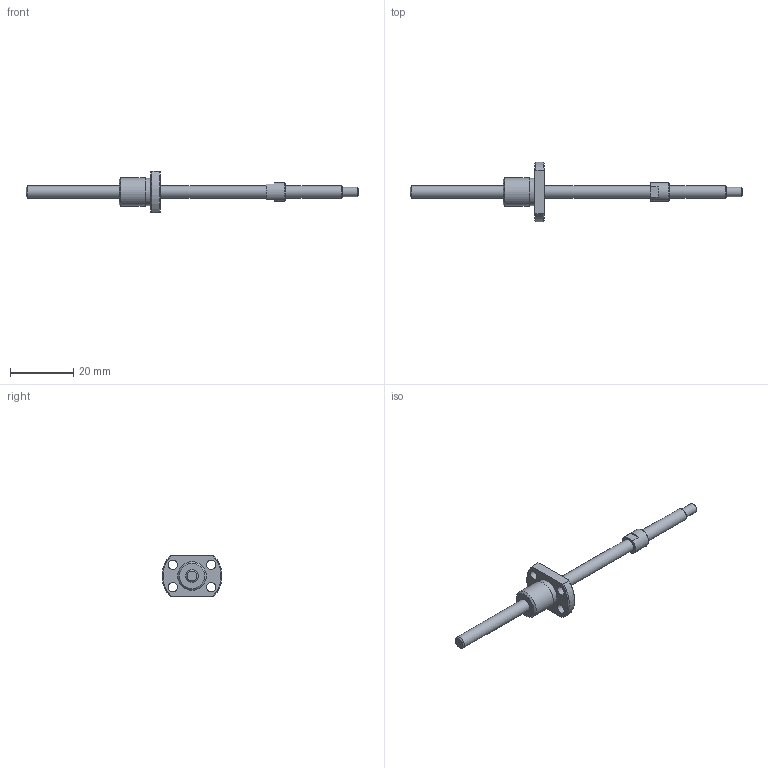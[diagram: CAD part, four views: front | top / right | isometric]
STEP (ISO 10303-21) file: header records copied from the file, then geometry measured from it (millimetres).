
FILE_DESCRIPTION(/* description */ ('STEP AP214'),/* implementation_level */ '2;1');
FILE_NAME(/* name */ 'PSRT0401K-72R105C5A0X(A29.5)',/* time_stamp */ '2026-08-06T16:11:07+02:00',/* author */ ('License CC BY-ND 4.0'),/* organization */ ('CADENAS'),/* preprocessor_version */ 'ST-DEVELOPER v20',/* originating_system */ 'PARTsolutions',/* authorisation */ ' ');
FILE_SCHEMA (('AUTOMOTIVE_DESIGN {1 0 10303 214 3 1 1}'));
Length unit declared in the file: millimetre
Products named in the file (3): PSRT0401K-72R105C5A0X(A29.5); PSRT0401KA105_shaft; PSR0401K_nut
Assembly tree (2 placements, depth 2):
  PSRT0401K-72R105C5A0X(A29.5)
    PSRT0401KA105_shaft
    PSR0401K_nut
Bounding box: 105 x 18.93 x 13 mm (x, y, z)
Volume: 2433.8 mm3; surface area: 2474.2 mm2
Topology: 2 solids, 2 shells, 38 faces, 81 edges, 52 vertices
Faces by surface type: plane 15, cylinder 13, cone 9, torus 1
Full cylindrical faces by diameter (mm): 2.9 x4, 3 x1, 4 x3, 6 x1, 8.6 x1, 9 x1
Entity records: 1045 total; most frequent: CARTESIAN_POINT 179, DIRECTION 176, ORIENTED_EDGE 126, AXIS2_PLACEMENT_3D 80, EDGE_LOOP 70, FACE_BOUND 70, EDGE_CURVE 63, VERTEX_POINT 51
